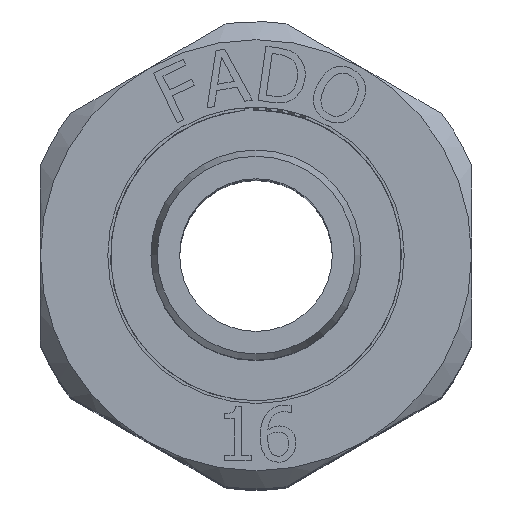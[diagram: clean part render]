
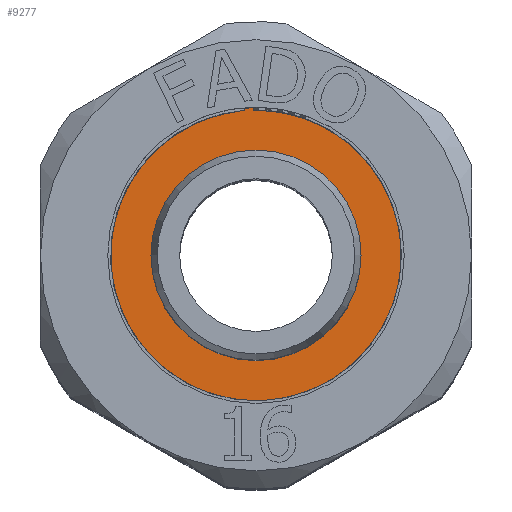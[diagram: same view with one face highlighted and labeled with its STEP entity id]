
A CAD part, top view. The second image highlights one B-rep face of the part: STEP entity #9277.
In plain terms, the highlighted planar face has unit normal (0, 0, 1) as drawn and (0, 0, -1) by its records, which use the part's own axes.
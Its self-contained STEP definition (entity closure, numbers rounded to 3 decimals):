
#1039=FACE_BOUND('',#3084,.T.);
#2231=PLANE('',#9952);
#2525=FACE_OUTER_BOUND('',#3083,.T.);
#3083=EDGE_LOOP('',(#7307,#7308));
#3084=EDGE_LOOP('',(#7309,#7310));
#3527=CIRCLE('',#9950,5.85);
#3528=CIRCLE('',#9951,5.85);
#3529=CIRCLE('',#9953,8.25);
#3530=CIRCLE('',#9954,8.25);
#4115=VERTEX_POINT('',#27908);
#4116=VERTEX_POINT('',#27909);
#4117=VERTEX_POINT('',#27914);
#4118=VERTEX_POINT('',#27915);
#5277=EDGE_CURVE('',#4115,#4116,#3527,.T.);
#5278=EDGE_CURVE('',#4116,#4115,#3528,.T.);
#5280=EDGE_CURVE('',#4117,#4118,#3529,.T.);
#5281=EDGE_CURVE('',#4118,#4117,#3530,.T.);
#7307=ORIENTED_EDGE('',*,*,#5280,.F.);
#7308=ORIENTED_EDGE('',*,*,#5281,.F.);
#7309=ORIENTED_EDGE('',*,*,#5277,.T.);
#7310=ORIENTED_EDGE('',*,*,#5278,.T.);
#9277=ADVANCED_FACE('',(#2525,#1039),#2231,.T.);
#9950=AXIS2_PLACEMENT_3D('',#27910,#11021,#11022);
#9951=AXIS2_PLACEMENT_3D('',#27911,#11023,#11024);
#9952=AXIS2_PLACEMENT_3D('',#27913,#11026,#11027);
#9953=AXIS2_PLACEMENT_3D('',#27916,#11028,#11029);
#9954=AXIS2_PLACEMENT_3D('',#27917,#11030,#11031);
#11021=DIRECTION('center_axis',(0.,0.,1.));
#11022=DIRECTION('ref_axis',(1.,0.,0.));
#11023=DIRECTION('center_axis',(0.,0.,1.));
#11024=DIRECTION('ref_axis',(1.,0.,0.));
#11026=DIRECTION('center_axis',(0.,0.,-1.));
#11027=DIRECTION('ref_axis',(-1.,0.,0.));
#11028=DIRECTION('center_axis',(0.,0.,1.));
#11029=DIRECTION('ref_axis',(1.,0.,0.));
#11030=DIRECTION('center_axis',(0.,0.,1.));
#11031=DIRECTION('ref_axis',(1.,0.,0.));
#27908=CARTESIAN_POINT('',(0.,-5.85,-7.1));
#27909=CARTESIAN_POINT('',(0.,5.85,-7.1));
#27910=CARTESIAN_POINT('Origin',(0.,0.,-7.1));
#27911=CARTESIAN_POINT('Origin',(0.,0.,-7.1));
#27913=CARTESIAN_POINT('Origin',(0.,-8.25,-7.1));
#27914=CARTESIAN_POINT('',(0.,-8.25,-7.1));
#27915=CARTESIAN_POINT('',(0.,8.25,-7.1));
#27916=CARTESIAN_POINT('Origin',(0.,0.,-7.1));
#27917=CARTESIAN_POINT('Origin',(0.,0.,-7.1));
